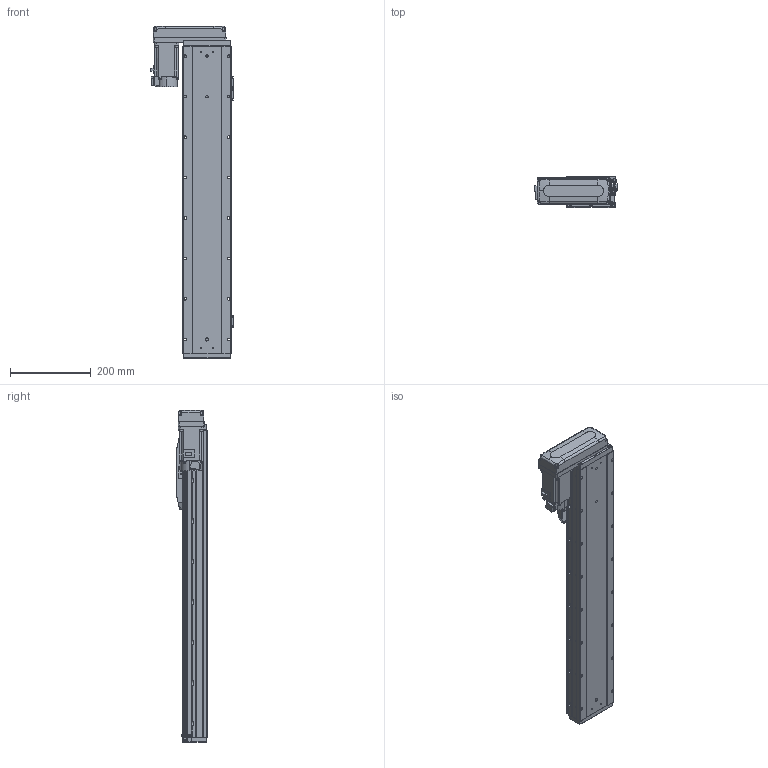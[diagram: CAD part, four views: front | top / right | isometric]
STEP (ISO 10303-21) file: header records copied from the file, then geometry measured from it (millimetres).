
FILE_DESCRIPTION (( 'STEP AP203' ), '1' );
FILE_NAME ('GTH12-550-BR-M40-C4.step', '2025-07-16T03:44:48', ( '' ), ( '' ), 'SwSTEP 2.0', 'SolidWorks 2023', '' );
FILE_SCHEMA (( 'CONFIG_CONTROL_DESIGN' ));
Length unit declared in the file: millimetre
Products named in the file (18): GTH120-013; GBT 70.1-M3×6; CTHA86-033_M40B; GTH120-001_550; GBT 70.3-M3×8; BTH-M3X5X6; GTH12-550-BR-M40-C4; GTH120-003; GTH80-022; hg-kn43j_-s100_; GBT 70.1-M5×16; GTH50-023; GTH120-027-1_GTH120-027-2; GTH120-006; GBT96.1-2002 3×0.8; GTH120-004; GTH80-028; GTH50-024
Assembly tree (59 placements, depth 2):
  GTH12-550-BR-M40-C4
    GTH120-001_550
    GTH120-003
    GTH120-006
    GTH120-004
    GTH120-013
    GBT 70.1-M3×6  x14
    GBT 70.1-M5×16  x10
    GBT 70.3-M3×8  x4
    GTH80-022
    GTH80-028  x2
    GTH50-023  x3
    GTH50-024  x3
    GBT96.1-2002 3×0.8  x6
    BTH-M3X5X6  x8
    hg-kn43j_-s100_
    CTHA86-033_M40B
    GTH120-027-1_GTH120-027-2
Bounding box: 203.5 x 76 x 820.5 mm (x, y, z)
Volume: 6202931.2 mm3; surface area: 593778.6 mm2
Topology: 61 solids, 61 shells, 2430 faces, 5661 edges, 3473 vertices
Faces by surface type: plane 1256, cylinder 698, cone 288, torus 174, sphere 8, bspline 6
Entity records: 45163 total; most frequent: CARTESIAN_POINT 7650, DIRECTION 7465, ORIENTED_EDGE 6932, EDGE_CURVE 3466, AXIS2_PLACEMENT_3D 2609, LINE 2247, VECTOR 2247, VERTEX_POINT 2194
